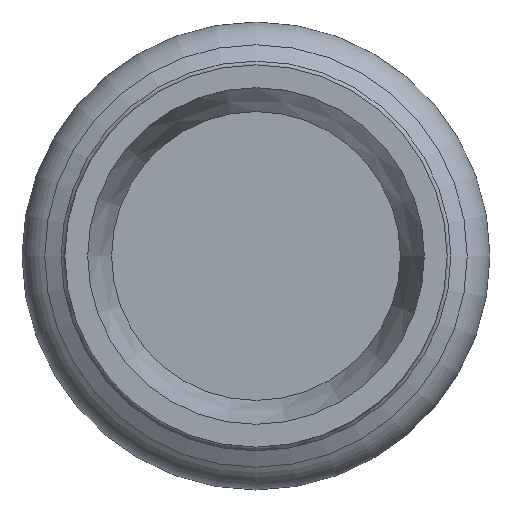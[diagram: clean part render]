
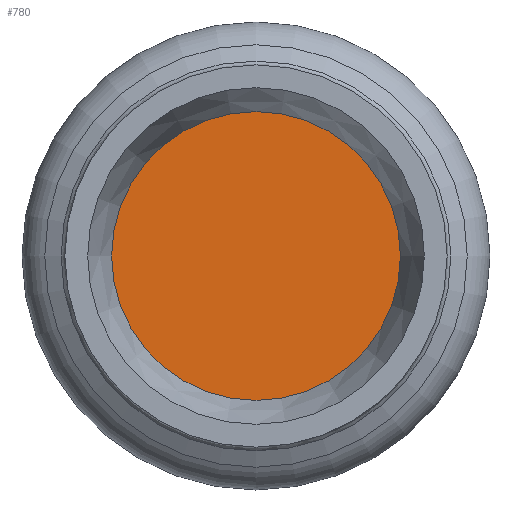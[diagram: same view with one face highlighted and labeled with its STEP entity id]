
A CAD part, left-side view. The second image highlights one B-rep face of the part: STEP entity #780.
In plain terms, the highlighted planar face has unit normal (-1, 0, 0) as drawn and (0, 0, -1) by its records, which use the part's own axes.
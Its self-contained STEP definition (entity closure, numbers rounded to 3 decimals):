
#751=CARTESIAN_POINT('',(0.75,0.,0.0));
#752=VERTEX_POINT('',#751);
#753=CARTESIAN_POINT('',(-10.25,0.0,0.0));
#754=DIRECTION('',(0.0,0.0,-1.0));
#755=DIRECTION('',(-1.0,0.0,0.0));
#756=AXIS2_PLACEMENT_3D('',#753,#754,#755);
#757=CIRCLE('',#756,11.0);
#758=EDGE_CURVE('',#752,#752,#757,.T.);
#772=CARTESIAN_POINT('',(-10.25,0.0,0.0));
#773=DIRECTION('',(0.0,0.0,-1.0));
#774=DIRECTION('',(-1.0,0.0,0.0));
#775=AXIS2_PLACEMENT_3D('',#772,#773,#774);
#776=PLANE('',#775);
#777=ORIENTED_EDGE('',*,*,#758,.T.);
#778=EDGE_LOOP('',(#777));
#779=FACE_OUTER_BOUND('',#778,.T.);
#780=ADVANCED_FACE('',(#779),#776,.T.);
